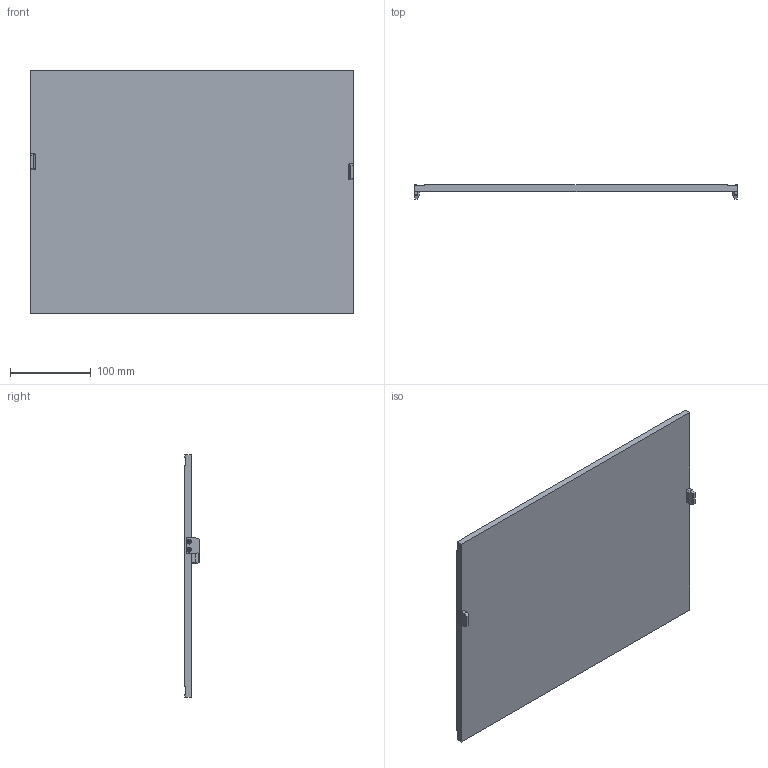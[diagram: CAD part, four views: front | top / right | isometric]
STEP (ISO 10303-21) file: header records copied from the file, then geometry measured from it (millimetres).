
FILE_DESCRIPTION (( 'STEP AP203' ), '1' );
FILE_NAME ('VT02402.STEP', '2016-10-24T10:51:10', ( '' ), ( '' ), 'SwSTEP 2.0', 'SolidWorks 2016', '' );
FILE_SCHEMA (( 'CONFIG_CONTROL_DESIGN' ));
Length unit declared in the file: millimetre
Products named in the file (4): DIN 912 M03x06 St8.8-Zn_DIN 912 M3 x 6 --- 6C; 160175.0001.positioning block; VT02402; 160178.0001.adapter plate VT02402
Assembly tree (7 placements, depth 2):
  VT02402
    160178.0001.adapter plate VT02402
    160175.0001.positioning block  x2
    DIN 912 M03x06 St8.8-Zn_DIN 912 M3 x 6 --- 6C  x4
Bounding box: 399.75 x 17.5 x 299.75 mm (x, y, z)
Volume: 890590.7 mm3; surface area: 254709.7 mm2
Topology: 7 solids, 7 shells, 210 faces, 500 edges, 304 vertices
Faces by surface type: plane 120, cylinder 50, cone 24, torus 16
Entity records: 3544 total; most frequent: DIRECTION 538, CARTESIAN_POINT 536, ORIENTED_EDGE 500, EDGE_CURVE 250, LINE 180, VECTOR 180, AXIS2_PLACEMENT_3D 179, VERTEX_POINT 161
